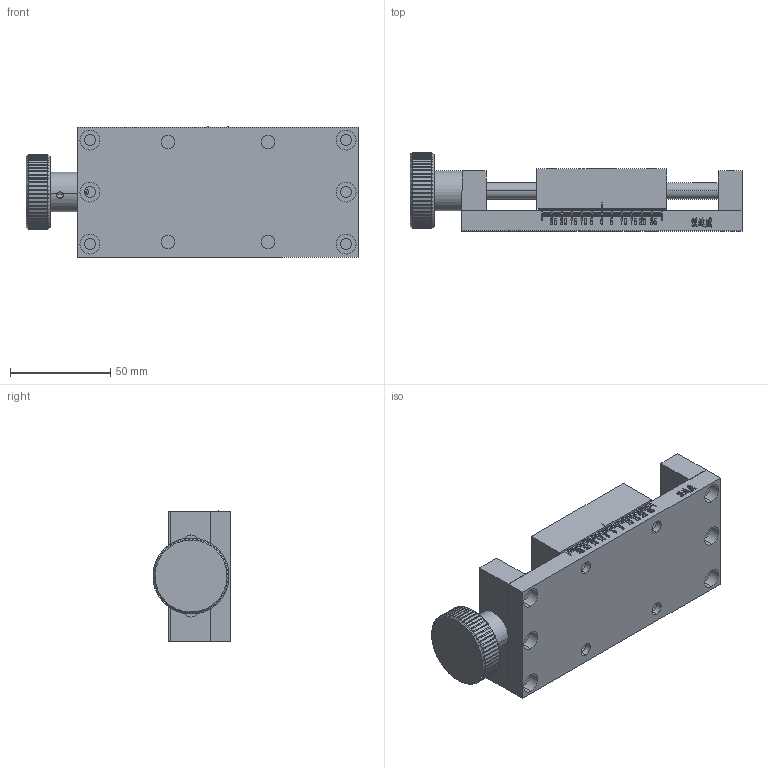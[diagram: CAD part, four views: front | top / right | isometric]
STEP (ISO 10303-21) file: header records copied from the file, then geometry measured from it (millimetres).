
FILE_DESCRIPTION (( 'STEP AP214' ), '1' );
FILE_NAME ('PT-ST50.STEP', '2022-08-21T08:44:35', ( '' ), ( '' ), 'SwSTEP 2.0', 'SolidWorks 2017', '' );
FILE_SCHEMA (( 'AUTOMOTIVE_DESIGN' ));
Length unit declared in the file: millimetre
Products named in the file (7): hex socket set screws with cone point gb_GB_FASTENER_SCREWS_HSCP M4X8-N; 唅聽38; 賑輸; PT-ST50; 菁釱4; 菁釱3; 菁釱
Assembly tree (10 placements, depth 2):
  PT-ST50
    菁釱
    菁釱3
    菁釱4
    賑輸
    hex socket set screws with cone point gb_GB_FASTENER_SCREWS_HSCP M4X8-N  x5
    唅聽38
Bounding box: 166 x 39 x 65 mm (x, y, z)
Volume: 223549 mm3; surface area: 59121.1 mm2
Topology: 10 solids, 10 shells, 1521 faces, 4248 edges, 2798 vertices
Faces by surface type: plane 1007, bspline 292, cylinder 176, cone 46
Entity records: 59318 total; most frequent: CARTESIAN_POINT 23994, ORIENTED_EDGE 8088, DIRECTION 5750, EDGE_CURVE 4044, LINE 2742, VECTOR 2742, VERTEX_POINT 2690, EDGE_LOOP 1530
